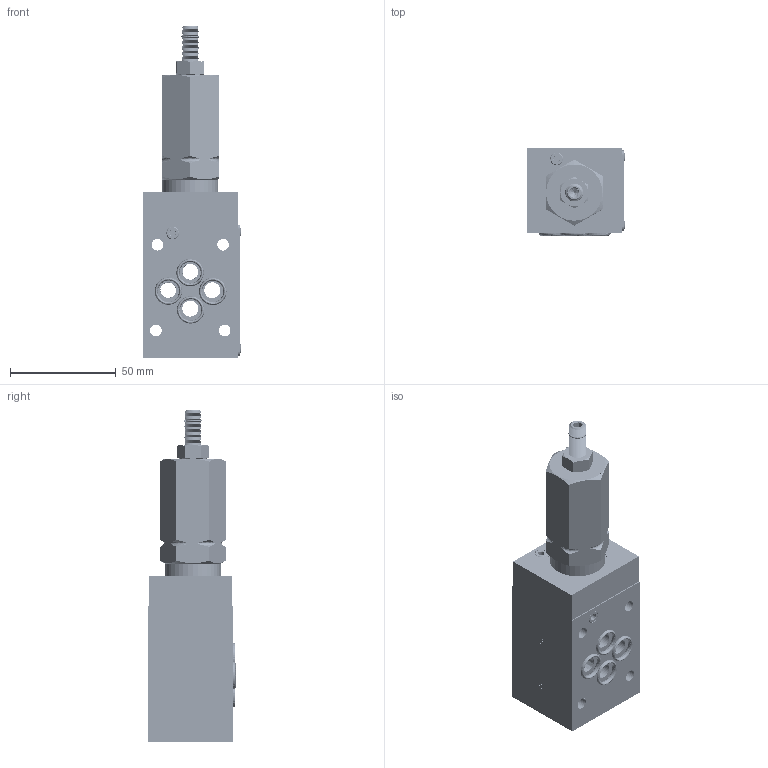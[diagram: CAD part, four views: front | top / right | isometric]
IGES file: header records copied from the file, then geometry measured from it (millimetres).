
Start section: SolidWorks IGES file using analytic representation for surfaces
Global section: file name: C:\Users\pc-te25\Desktop\ASSIEME 379-4-A.IGS; native system: SolidWorks 2018; preprocessor: SolidWorks 2018; author: pc-te25; date: 191014.104917; units: millimetre
Bounding box: 46.66 x 41.16 x 156.8 mm (x, y, z)
Surface area: 56348.9 mm2 (no closed solid volume)
Topology: 0 solids, 0 shells, 2490 faces, 26251 edges, 26232 vertices
Faces by surface type: bspline 1591, revolution 899
